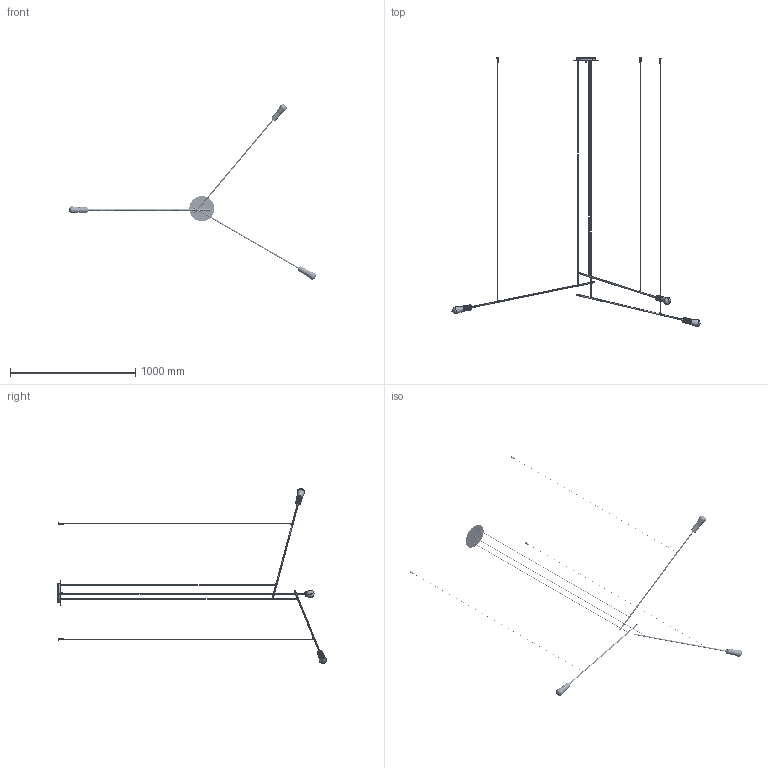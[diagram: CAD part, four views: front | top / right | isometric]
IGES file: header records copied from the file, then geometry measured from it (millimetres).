
Start section: SolidWorks IGES file using analytic representation for surfaces
Global section: file name: Z:\Modele 3D_WWW\_KOLEKCJE_WWW\PILE-III-9128\PILE-III-9128.IGS; native system: SolidWorks 2020; preprocessor: SolidWorks 2020; author: gabriela.tworek; date: 210408.091358; units: millimetre
Bounding box: 1976.59 x 2145.36 x 1396.3 mm (x, y, z)
Surface area: 549655.6 mm2 (no closed solid volume)
Topology: 0 solids, 0 shells, 3527 faces, 36320 edges, 36308 vertices
Faces by surface type: bspline 2363, revolution 1164
